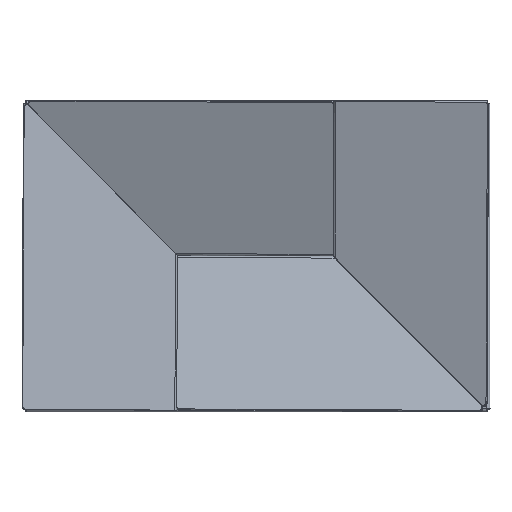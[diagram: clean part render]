
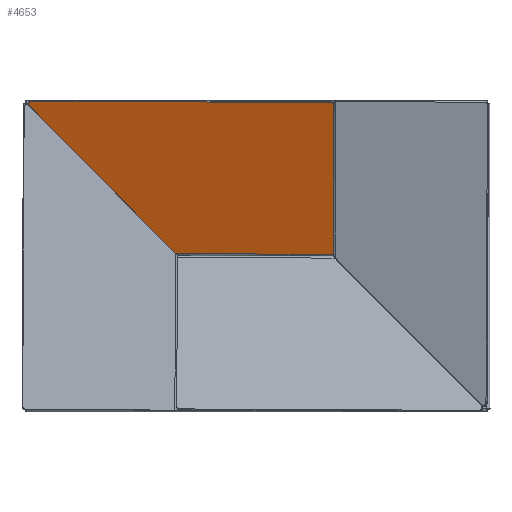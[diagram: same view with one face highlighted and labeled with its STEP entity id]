
A CAD part, top view. The second image highlights one B-rep face of the part: STEP entity #4653.
In plain terms, the highlighted planar face has unit normal (-0.002, -0.342, 0.94).
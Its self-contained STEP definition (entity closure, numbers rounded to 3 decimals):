
#91 = VECTOR ( 'NONE', #16250, 1000. ) ;
#1183 = VERTEX_POINT ( 'NONE', #2888 ) ;
#1231 = CARTESIAN_POINT ( 'NONE',  ( -216.488, 149.262, 88.106 ) ) ;
#1291 = ORIENTED_EDGE ( 'NONE', *, *, #16670, .T. ) ;
#1815 = VECTOR ( 'NONE', #2303, 1000. ) ;
#2028 = VERTEX_POINT ( 'NONE', #16587 ) ;
#2104 = ORIENTED_EDGE ( 'NONE', *, *, #9179, .T. ) ;
#2303 = DIRECTION ( 'NONE',  ( 0.681, -0.688, -0.249 ) ) ;
#2368 = VECTOR ( 'NONE', #6267, 1000. ) ;
#2695 = EDGE_CURVE ( 'NONE', #3766, #10182, #11268, .T. ) ;
#2735 = CARTESIAN_POINT ( 'NONE',  ( -218.697, 144.523, 86.377 ) ) ;
#2846 = EDGE_CURVE ( 'NONE', #1183, #10182, #17228, .T. ) ;
#2888 = CARTESIAN_POINT ( 'NONE',  ( 74.467, 145.039, 87.08 ) ) ;
#2982 = ORIENTED_EDGE ( 'NONE', *, *, #2846, .T. ) ;
#3155 = FACE_OUTER_BOUND ( 'NONE', #8687, .T. ) ;
#3424 = PLANE ( 'NONE',  #9307 ) ;
#3438 = DIRECTION ( 'NONE',  ( -0.002, -0.342, 0.94 ) ) ;
#3611 = CARTESIAN_POINT ( 'NONE',  ( -104.582, 29.302, 44.641 ) ) ;
#3766 = VERTEX_POINT ( 'NONE', #1231 ) ;
#4349 = CARTESIAN_POINT ( 'NONE',  ( 71.467, 145.054, 87.08 ) ) ;
#4653 = ADVANCED_FACE ( 'NONE', ( #3155 ), #3424, .F. ) ;
#4940 = DIRECTION ( 'NONE',  ( -0.005, -0.94, -0.342 ) ) ;
#5136 = LINE ( 'NONE', #3611, #1815 ) ;
#5768 = DIRECTION ( 'NONE',  ( -0.005, -0.94, -0.342 ) ) ;
#6252 = DIRECTION ( 'NONE',  ( -0.005, -0.94, -0.342 ) ) ;
#6267 = DIRECTION ( 'NONE',  ( -1., 0.005, 0. ) ) ;
#6989 = VERTEX_POINT ( 'NONE', #2735 ) ;
#7044 = CARTESIAN_POINT ( 'NONE',  ( 73.776, 1.753, 34.927 ) ) ;
#7970 = ORIENTED_EDGE ( 'NONE', *, *, #12682, .F. ) ;
#8047 = ORIENTED_EDGE ( 'NONE', *, *, #2695, .F. ) ;
#8553 = ORIENTED_EDGE ( 'NONE', *, *, #10281, .F. ) ;
#8687 = EDGE_LOOP ( 'NONE', ( #7970, #2982, #8047, #2104, #1291, #8553 ) ) ;
#8985 = LINE ( 'NONE', #14752, #12708 ) ;
#9179 = EDGE_CURVE ( 'NONE', #3766, #6989, #14232, .T. ) ;
#9307 = AXIS2_PLACEMENT_3D ( 'NONE', #13215, #14648, #6252 ) ;
#10182 = VERTEX_POINT ( 'NONE', #17195 ) ;
#10281 = EDGE_CURVE ( 'NONE', #12371, #2028, #13562, .T. ) ;
#11268 = LINE ( 'NONE', #14834, #91 ) ;
#11808 = CARTESIAN_POINT ( 'NONE',  ( -216.502, 146.443, 87.08 ) ) ;
#12371 = VERTEX_POINT ( 'NONE', #7044 ) ;
#12682 = EDGE_CURVE ( 'NONE', #1183, #12371, #8985, .T. ) ;
#12708 = VECTOR ( 'NONE', #4940, 1000. ) ;
#13215 = CARTESIAN_POINT ( 'NONE',  ( -75.47, 54.759, 53.958 ) ) ;
#13226 = DIRECTION ( 'NONE',  ( -0.005, -0.94, -0.342 ) ) ;
#13230 = CARTESIAN_POINT ( 'NONE',  ( -225.221, 3.195, 34.927 ) ) ;
#13562 = LINE ( 'NONE', #13230, #2368 ) ;
#14144 = DIRECTION ( 'NONE',  ( -0.002, -0.342, 0.94 ) ) ;
#14232 = CIRCLE ( 'NONE', #17240, 3. ) ;
#14648 = DIRECTION ( 'NONE',  ( 0.002, 0.342, -0.94 ) ) ;
#14752 = CARTESIAN_POINT ( 'NONE',  ( 74.481, 147.858, 88.106 ) ) ;
#14834 = CARTESIAN_POINT ( 'NONE',  ( -224.516, 149.301, 88.106 ) ) ;
#15858 = AXIS2_PLACEMENT_3D ( 'NONE', #4349, #14144, #5768 ) ;
#16250 = DIRECTION ( 'NONE',  ( 1., -0.005, 0. ) ) ;
#16587 = CARTESIAN_POINT ( 'NONE',  ( -78.023, 2.485, 34.927 ) ) ;
#16670 = EDGE_CURVE ( 'NONE', #6989, #2028, #5136, .T. ) ;
#17195 = CARTESIAN_POINT ( 'NONE',  ( 71.481, 147.873, 88.106 ) ) ;
#17228 = CIRCLE ( 'NONE', #15858, 3. ) ;
#17240 = AXIS2_PLACEMENT_3D ( 'NONE', #11808, #3438, #13226 ) ;
